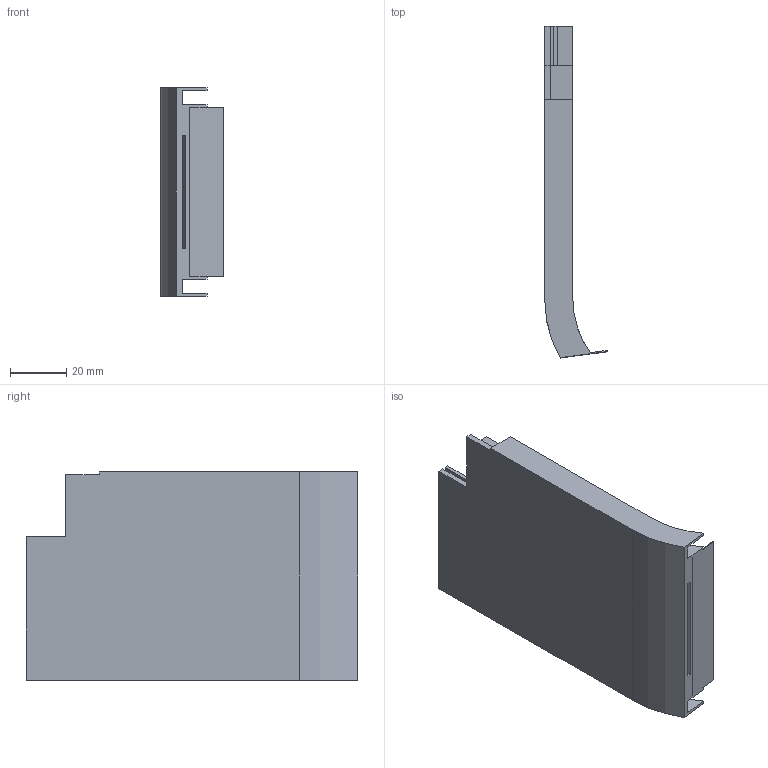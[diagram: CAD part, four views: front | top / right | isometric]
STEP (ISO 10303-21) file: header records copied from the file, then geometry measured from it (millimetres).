
FILE_DESCRIPTION(('STEP AP203'), '1');
FILE_NAME('ðåçîíàòîð 1ï', '', ('UNSPECIFIED'), ('UNSPECIFIED'), 'ASCON STEP Converter 1.3', 'ASCON Math Kernel', '');
FILE_SCHEMA(('CONFIG_CONTROL_DESIGN'));
Length unit declared in the file: millimetre
Bounding box: 22.21 x 117.75 x 74 mm (x, y, z)
Volume: 32238.5 mm3; surface area: 35368.1 mm2
Topology: 1 solids, 1 shells, 42 faces, 120 edges, 79 vertices
Faces by surface type: plane 32, cylinder 10
Entity records: 1746 total; most frequent: CARTESIAN_POINT 242, ORIENTED_EDGE 240, DIRECTION 228, EDGE_CURVE 120, LINE 98, VECTOR 98, VERTEX_POINT 79, AXIS2_PLACEMENT_3D 65
